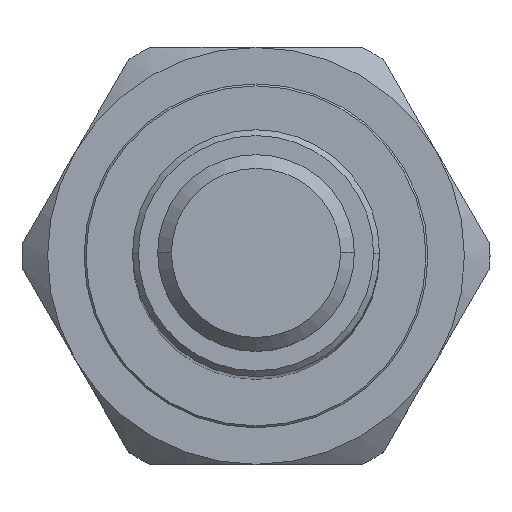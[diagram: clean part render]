
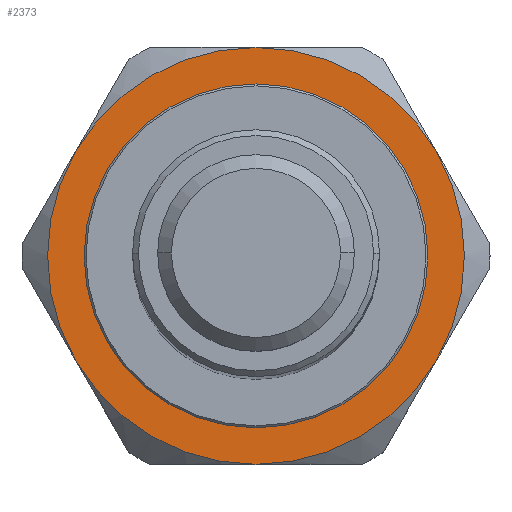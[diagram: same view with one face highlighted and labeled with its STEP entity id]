
A CAD part, top view. The second image highlights one B-rep face of the part: STEP entity #2373.
In plain terms, the highlighted planar face has unit normal (0, 0, 1).
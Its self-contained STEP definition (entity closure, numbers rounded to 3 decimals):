
#47=CARTESIAN_POINT('',(0.,0.,7.544));
#48=DIRECTION('',(0.,0.,-1.));
#49=DIRECTION('',(-0.866,-0.5,0.));
#50=AXIS2_PLACEMENT_3D('',#47,#48,#49);
#52=CARTESIAN_POINT('',(0.,0.,7.544));
#53=DIRECTION('',(0.,0.,-1.));
#54=DIRECTION('',(-1.,0.,0.));
#55=AXIS2_PLACEMENT_3D('',#52,#53,#54);
#57=CARTESIAN_POINT('',(0.,0.,7.544));
#58=DIRECTION('',(0.,0.,-1.));
#59=DIRECTION('',(-0.866,0.5,0.));
#60=AXIS2_PLACEMENT_3D('',#57,#58,#59);
#62=CARTESIAN_POINT('',(0.,0.,7.544));
#63=DIRECTION('',(0.,0.,-1.));
#64=DIRECTION('',(0.,1.,0.));
#65=AXIS2_PLACEMENT_3D('',#62,#63,#64);
#67=CARTESIAN_POINT('',(0.,0.,7.544));
#68=DIRECTION('',(0.,0.,-1.));
#69=DIRECTION('',(0.866,0.5,0.));
#70=AXIS2_PLACEMENT_3D('',#67,#68,#69);
#72=CARTESIAN_POINT('',(0.,0.,7.544));
#73=DIRECTION('',(0.,0.,-1.));
#74=DIRECTION('',(1.,0.,0.));
#75=AXIS2_PLACEMENT_3D('',#72,#73,#74);
#77=CARTESIAN_POINT('',(0.,0.,7.544));
#78=DIRECTION('',(0.,0.,-1.));
#79=DIRECTION('',(0.866,-0.5,0.));
#80=AXIS2_PLACEMENT_3D('',#77,#78,#79);
#82=CARTESIAN_POINT('',(0.,0.,7.544));
#83=DIRECTION('',(0.,0.,-1.));
#84=DIRECTION('',(0.,-1.,0.));
#85=AXIS2_PLACEMENT_3D('',#82,#83,#84);
#87=CARTESIAN_POINT('',(0.,0.,7.544));
#88=DIRECTION('',(0.,0.,1.));
#89=DIRECTION('',(-1.,0.,0.));
#90=AXIS2_PLACEMENT_3D('',#87,#88,#89);
#92=CARTESIAN_POINT('',(0.,0.,7.544));
#93=DIRECTION('',(0.,0.,1.));
#94=DIRECTION('',(1.,0.,0.));
#95=AXIS2_PLACEMENT_3D('',#92,#93,#94);
#1843=CARTESIAN_POINT('',(-11.106,0.,7.544));
#1844=VERTEX_POINT('',#1843);
#1845=CARTESIAN_POINT('',(11.106,0.,7.544));
#1846=VERTEX_POINT('',#1845);
#1847=CARTESIAN_POINT('',(-11.658,-6.731,7.544));
#1848=CARTESIAN_POINT('',(-13.462,0.,7.544));
#1849=VERTEX_POINT('',#1847);
#1850=VERTEX_POINT('',#1848);
#1851=CARTESIAN_POINT('',(-11.658,6.731,7.544));
#1852=VERTEX_POINT('',#1851);
#1853=CARTESIAN_POINT('',(0.,13.462,7.544));
#1854=VERTEX_POINT('',#1853);
#1855=CARTESIAN_POINT('',(11.658,6.731,7.544));
#1856=VERTEX_POINT('',#1855);
#1857=CARTESIAN_POINT('',(13.462,0.,7.544));
#1858=VERTEX_POINT('',#1857);
#1859=CARTESIAN_POINT('',(11.658,-6.731,7.544));
#1860=VERTEX_POINT('',#1859);
#1861=CARTESIAN_POINT('',(0.,-13.462,7.544));
#1862=VERTEX_POINT('',#1861);
#2346=CARTESIAN_POINT('',(0.,0.,7.544));
#2347=DIRECTION('',(0.,0.,1.));
#2348=DIRECTION('',(1.,0.,0.));
#2349=AXIS2_PLACEMENT_3D('',#2346,#2347,#2348);
#2350=PLANE('',#2349);
#2352=ORIENTED_EDGE('',*,*,#2351,.T.);
#2354=ORIENTED_EDGE('',*,*,#2353,.T.);
#2356=ORIENTED_EDGE('',*,*,#2355,.T.);
#2358=ORIENTED_EDGE('',*,*,#2357,.T.);
#2360=ORIENTED_EDGE('',*,*,#2359,.T.);
#2362=ORIENTED_EDGE('',*,*,#2361,.T.);
#2364=ORIENTED_EDGE('',*,*,#2363,.T.);
#2366=ORIENTED_EDGE('',*,*,#2365,.T.);
#2367=EDGE_LOOP('',(#2352,#2354,#2356,#2358,#2360,#2362,#2364,#2366));
#2368=FACE_OUTER_BOUND('',#2367,.F.);
#2369=ORIENTED_EDGE('',*,*,#2329,.T.);
#2370=ORIENTED_EDGE('',*,*,#2312,.T.);
#2371=EDGE_LOOP('',(#2369,#2370));
#2372=FACE_BOUND('',#2371,.F.);
#2373=ADVANCED_FACE('',(#2368,#2372),#2350,.T.);
#51=CIRCLE('',#50,13.462);
#56=CIRCLE('',#55,13.462);
#61=CIRCLE('',#60,13.462);
#66=CIRCLE('',#65,13.462);
#71=CIRCLE('',#70,13.462);
#76=CIRCLE('',#75,13.462);
#81=CIRCLE('',#80,13.462);
#86=CIRCLE('',#85,13.462);
#91=CIRCLE('',#90,11.106);
#96=CIRCLE('',#95,11.106);
#2312=EDGE_CURVE('',#1846,#1844,#96,.T.);
#2329=EDGE_CURVE('',#1844,#1846,#91,.T.);
#2351=EDGE_CURVE('',#1849,#1850,#51,.T.);
#2353=EDGE_CURVE('',#1850,#1852,#56,.T.);
#2355=EDGE_CURVE('',#1852,#1854,#61,.T.);
#2357=EDGE_CURVE('',#1854,#1856,#66,.T.);
#2359=EDGE_CURVE('',#1856,#1858,#71,.T.);
#2361=EDGE_CURVE('',#1858,#1860,#76,.T.);
#2363=EDGE_CURVE('',#1860,#1862,#81,.T.);
#2365=EDGE_CURVE('',#1862,#1849,#86,.T.);
